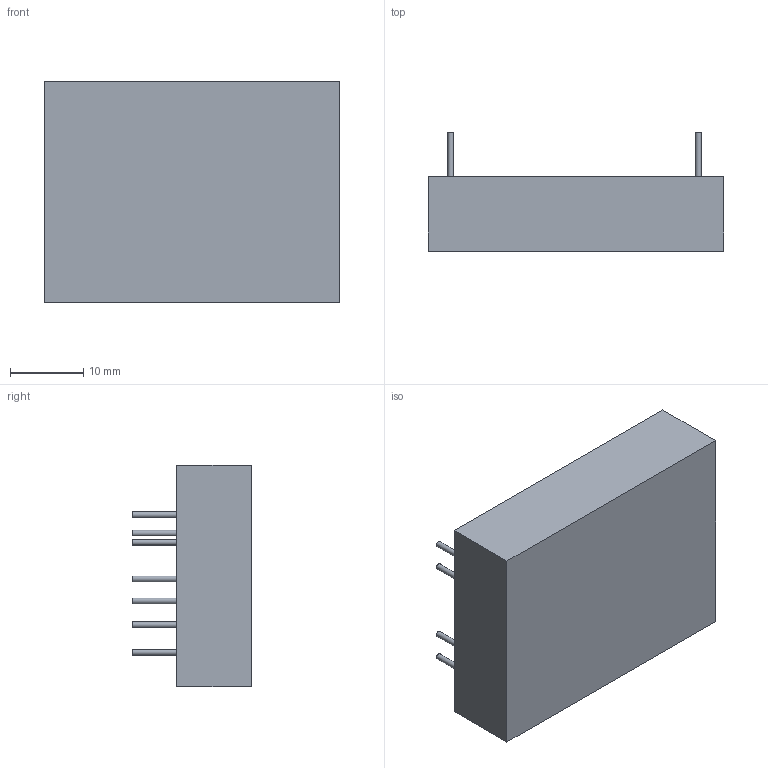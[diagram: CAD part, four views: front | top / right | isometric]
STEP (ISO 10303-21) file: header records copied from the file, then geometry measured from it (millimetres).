
FILE_DESCRIPTION((''),'2;1');
FILE_NAME('\\FILE-SERVER\Konstr\РАБОЧАЯ\Баранов А.Ю\Модули\2016\3Д модели МДМ\004 ТУ\МДМ10-2В.stp','2016-02-18T16:34:33',('ABaranov'),(''),'Autodesk Inventor 2013','Autodesk Inventor 2013','');
FILE_SCHEMA(('AUTOMOTIVE_DESIGN { 1 0 10303 214 1 1 1 1 }'));
Length unit declared in the file: millimetre
Products named in the file (1): МДМ10-2В
Bounding box: 40.2 x 16.2 x 30.2 mm (x, y, z)
Volume: 12407.3 mm3; surface area: 3992.9 mm2
Topology: 9 solids, 9 shells, 30 faces, 36 edges, 24 vertices
Faces by surface type: plane 22, cylinder 8
Full cylindrical faces by diameter (mm): 0.8 x8
Entity records: 620 total; most frequent: DIRECTION 106, CARTESIAN_POINT 83, ORIENTED_EDGE 56, AXIS2_PLACEMENT_3D 47, EDGE_LOOP 38, FACE_OUTER_BOUND 30, ADVANCED_FACE 30, EDGE_CURVE 28
